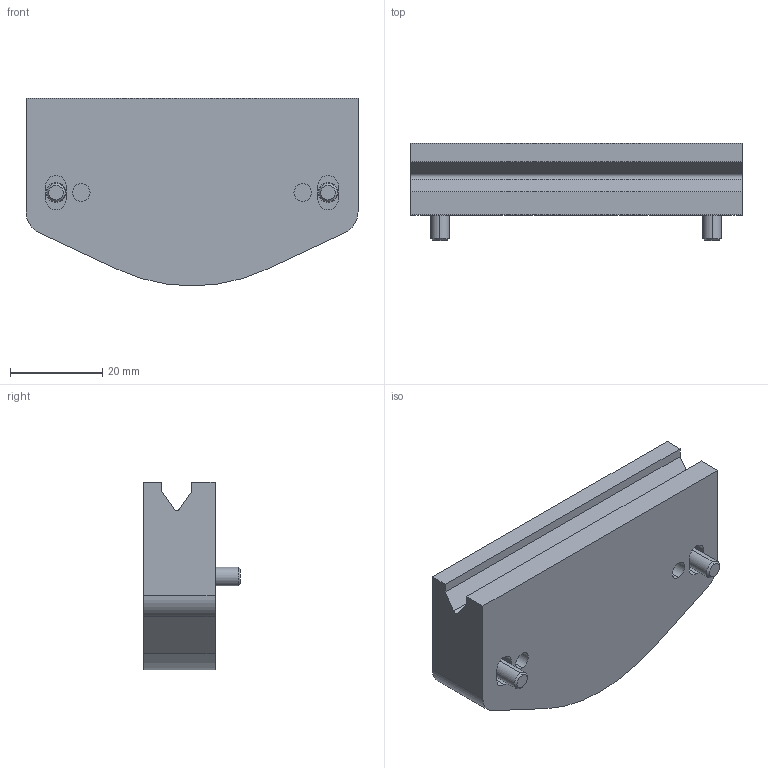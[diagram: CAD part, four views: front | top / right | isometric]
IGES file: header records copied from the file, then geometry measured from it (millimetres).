
Start section: 3D InterOp IGES (v. 2019 1.0.2), Spatial Corp. Copyright (c) 1999-2017.
Global section: file name: CW360.igs; native system: Spatial Corp.; preprocessor: 3D InterOp GENERIC/IGES 3.0; author: Noname; organization: Noname; date: 20220630.144758; units: millimetre
Bounding box: 72 x 21 x 40.75 mm (x, y, z)
Surface area: 10303.7 mm2 (no closed solid volume)
Topology: 0 solids, 0 shells, 105 faces, 546 edges, 546 vertices
Faces by surface type: extrusion 56, revolution 49
